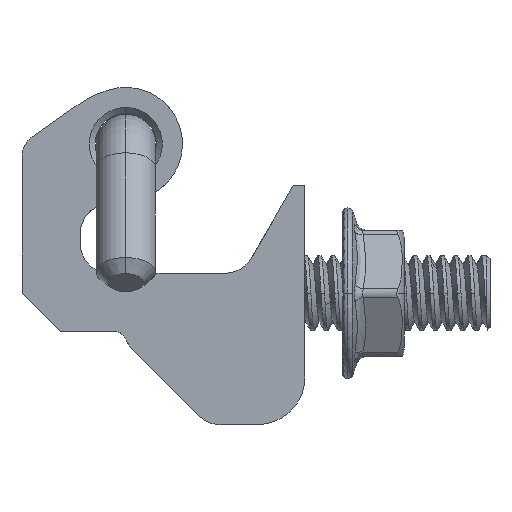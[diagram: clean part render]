
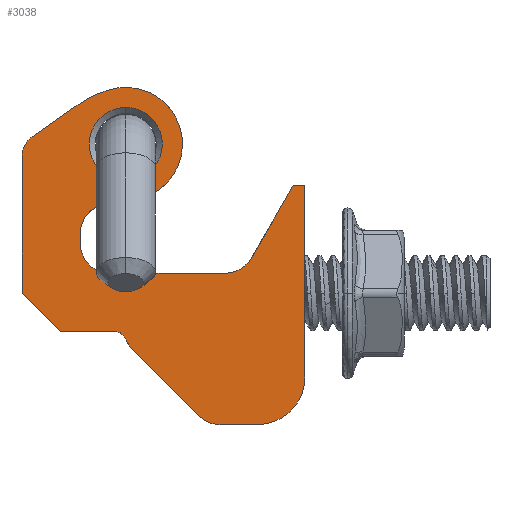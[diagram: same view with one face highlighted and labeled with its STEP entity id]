
A CAD part, left-side view. The second image highlights one B-rep face of the part: STEP entity #3038.
In plain terms, the highlighted planar face has unit normal (-1, 0, 0).
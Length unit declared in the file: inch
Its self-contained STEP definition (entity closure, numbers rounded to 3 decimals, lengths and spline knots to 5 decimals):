
#710=CARTESIAN_POINT('',(-1.575,0.,0.));
#711=DIRECTION('',(1.,0.,0.));
#712=DIRECTION('',(0.,0.,1.));
#713=AXIS2_PLACEMENT_3D('',#710,#711,#712);
#715=CARTESIAN_POINT('',(-1.575,0.,0.));
#716=DIRECTION('',(1.,0.,0.));
#717=DIRECTION('',(0.,0.,-1.));
#718=AXIS2_PLACEMENT_3D('',#715,#716,#717);
#720=CARTESIAN_POINT('',(-1.575,0.052,-0.328));
#721=DIRECTION('',(1.,0.,0.));
#722=DIRECTION('',(0.,0.,-1.));
#723=AXIS2_PLACEMENT_3D('',#720,#721,#722);
#725=DIRECTION('',(0.,1.,0.));
#726=VECTOR('',#725,0.37948);
#727=CARTESIAN_POINT('',(-1.575,-0.32748,-0.426));
#728=LINE('',#727,#726);
#729=CARTESIAN_POINT('',(-1.575,-0.32748,-0.326));
#730=DIRECTION('',(1.,0.,0.));
#731=DIRECTION('',(0.,-0.865,-0.501));
#732=AXIS2_PLACEMENT_3D('',#729,#730,#731);
#734=DIRECTION('',(0.,0.501,-0.865));
#735=VECTOR('',#734,0.27523);
#736=CARTESIAN_POINT('',(-1.575,-0.552,-0.138));
#737=LINE('',#736,#735);
#738=DIRECTION('',(0.,1.,0.));
#739=VECTOR('',#738,0.039);
#740=CARTESIAN_POINT('',(-1.575,-0.591,-0.138));
#741=LINE('',#740,#739);
#742=DIRECTION('',(0.,0.,1.));
#743=VECTOR('',#742,0.63);
#744=CARTESIAN_POINT('',(-1.575,-0.591,-0.768));
#745=LINE('',#744,#743);
#746=CARTESIAN_POINT('',(-1.575,-0.434,-0.768));
#747=DIRECTION('',(-1.,0.,0.));
#748=DIRECTION('',(0.,0.,-1.));
#749=AXIS2_PLACEMENT_3D('',#746,#747,#748);
#751=DIRECTION('',(0.,-1.,0.));
#752=VECTOR('',#751,0.12258);
#753=CARTESIAN_POINT('',(-1.575,-0.31142,-0.925));
#754=LINE('',#753,#752);
#755=CARTESIAN_POINT('',(-1.575,-0.31142,-0.825));
#756=DIRECTION('',(-1.,0.,0.));
#757=DIRECTION('',(0.,0.707,-0.707));
#758=AXIS2_PLACEMENT_3D('',#755,#756,#757);
#760=DIRECTION('',(0.,-0.707,-0.707));
#761=VECTOR('',#760,0.30998);
#762=CARTESIAN_POINT('',(-1.575,-0.02152,-0.67652));
#763=LINE('',#762,#761);
#764=CARTESIAN_POINT('',(-1.575,-0.09223,-0.60581));
#765=DIRECTION('',(-1.,0.,0.));
#766=DIRECTION('',(0.,0.93,-0.368));
#767=AXIS2_PLACEMENT_3D('',#764,#765,#766);
#769=CARTESIAN_POINT('',(-1.575,0.037,-0.657));
#770=DIRECTION('',(1.,0.,0.));
#771=DIRECTION('',(0.,0.,1.));
#772=AXIS2_PLACEMENT_3D('',#769,#770,#771);
#774=DIRECTION('',(0.,-1.,0.));
#775=VECTOR('',#774,0.179);
#776=CARTESIAN_POINT('',(-1.575,0.216,-0.618));
#777=LINE('',#776,#775);
#778=DIRECTION('',(0.,-0.707,-0.707));
#779=VECTOR('',#778,0.17819);
#780=CARTESIAN_POINT('',(-1.575,0.342,-0.492));
#781=LINE('',#780,#779);
#782=DIRECTION('',(0.,0.,-1.));
#783=VECTOR('',#782,0.45139);
#784=CARTESIAN_POINT('',(-1.575,0.342,-0.04061));
#785=LINE('',#784,#783);
#786=CARTESIAN_POINT('',(-1.575,0.263,-0.04061));
#787=DIRECTION('',(-1.,0.,0.));
#788=DIRECTION('',(0.,0.575,0.818));
#789=AXIS2_PLACEMENT_3D('',#786,#787,#788);
#791=DIRECTION('',(0.,0.818,-0.575));
#792=VECTOR('',#791,0.17629);
#793=CARTESIAN_POINT('',(-1.575,0.1642,0.12539));
#794=LINE('',#793,#792);
#795=CARTESIAN_POINT('',(-1.575,-0.05757,-0.19015));
#796=DIRECTION('',(1.,0.,0.));
#797=DIRECTION('',(0.,0.575,0.818));
#798=AXIS2_PLACEMENT_3D('',#795,#796,#797);
#800=CARTESIAN_POINT('',(-1.575,0.,0.));
#801=DIRECTION('',(1.,0.,0.));
#802=DIRECTION('',(0.,0.29,0.957));
#803=AXIS2_PLACEMENT_3D('',#800,#801,#802);
#805=CARTESIAN_POINT('',(-1.575,0.06339,0.19591));
#806=DIRECTION('',(1.,0.,0.));
#807=DIRECTION('',(0.,-0.308,-0.951));
#808=AXIS2_PLACEMENT_3D('',#805,#806,#807);
#810=CARTESIAN_POINT('',(-1.575,0.052,-0.295));
#811=DIRECTION('',(1.,0.,0.));
#812=DIRECTION('',(0.,1.,0.));
#813=AXIS2_PLACEMENT_3D('',#810,#811,#812);
#815=DIRECTION('',(0.,0.,1.));
#816=VECTOR('',#815,0.033);
#817=CARTESIAN_POINT('',(-1.575,0.15,-0.328));
#818=LINE('',#817,#816);
#1677=CARTESIAN_POINT('',(-1.575,0.342,-0.492));
#1678=CARTESIAN_POINT('',(-1.575,0.216,-0.618));
#1679=VERTEX_POINT('',#1677);
#1680=VERTEX_POINT('',#1678);
#1682=CARTESIAN_POINT('',(-1.575,-0.32748,-0.426));
#1684=VERTEX_POINT('',#1682);
#1701=CARTESIAN_POINT('',(-1.575,0.30843,0.02402));
#1703=VERTEX_POINT('',#1701);
#1715=CARTESIAN_POINT('',(-1.575,-0.591,-0.768));
#1716=CARTESIAN_POINT('',(-1.575,-0.591,-0.138));
#1717=VERTEX_POINT('',#1715);
#1718=VERTEX_POINT('',#1716);
#1751=CARTESIAN_POINT('',(-1.575,0.,-0.1205));
#1752=CARTESIAN_POINT('',(-1.575,0.,0.1205));
#1753=VERTEX_POINT('',#1751);
#1754=VERTEX_POINT('',#1752);
#1767=CARTESIAN_POINT('',(-1.575,-0.414,-0.37614));
#1769=VERTEX_POINT('',#1767);
#1789=CARTESIAN_POINT('',(-1.575,-0.434,-0.925));
#1790=VERTEX_POINT('',#1789);
#1887=CARTESIAN_POINT('',(-1.575,0.342,-0.04061));
#1888=VERTEX_POINT('',#1887);
#1901=CARTESIAN_POINT('',(-1.575,0.037,-0.618));
#1902=VERTEX_POINT('',#1901);
#1907=CARTESIAN_POINT('',(-1.575,-0.552,-0.138));
#1908=VERTEX_POINT('',#1907);
#1937=CARTESIAN_POINT('',(-1.575,0.00074,-0.64264));
#1938=CARTESIAN_POINT('',(-1.575,-0.02152,-0.67652));
#1939=VERTEX_POINT('',#1937);
#1940=VERTEX_POINT('',#1938);
#1946=CARTESIAN_POINT('',(-1.575,-0.24071,-0.89571));
#1947=VERTEX_POINT('',#1946);
#1948=CARTESIAN_POINT('',(-1.575,-0.31142,-0.925));
#1949=VERTEX_POINT('',#1948);
#1989=CARTESIAN_POINT('',(-1.575,0.05419,0.17898));
#1990=CARTESIAN_POINT('',(-1.575,-0.05757,-0.17792));
#1991=VERTEX_POINT('',#1989);
#1992=VERTEX_POINT('',#1990);
#1993=CARTESIAN_POINT('',(-1.575,0.1642,0.12539));
#1994=VERTEX_POINT('',#1993);
#2045=CARTESIAN_POINT('',(-1.575,0.052,-0.426));
#2046=CARTESIAN_POINT('',(-1.575,0.15,-0.328));
#2047=VERTEX_POINT('',#2045);
#2048=VERTEX_POINT('',#2046);
#2049=CARTESIAN_POINT('',(-1.575,0.15,-0.295));
#2050=VERTEX_POINT('',#2049);
#2051=CARTESIAN_POINT('',(-1.575,0.052,-0.197));
#2052=VERTEX_POINT('',#2051);
#2984=CARTESIAN_POINT('',(-1.575,0.,0.));
#2985=DIRECTION('',(1.,0.,0.));
#2986=DIRECTION('',(0.,0.,-1.));
#2987=AXIS2_PLACEMENT_3D('',#2984,#2985,#2986);
#2988=PLANE('',#2987);
#2990=ORIENTED_EDGE('',*,*,#2989,.F.);
#2992=ORIENTED_EDGE('',*,*,#2991,.F.);
#2994=ORIENTED_EDGE('',*,*,#2993,.F.);
#2995=ORIENTED_EDGE('',*,*,#2723,.F.);
#2996=ORIENTED_EDGE('',*,*,#2820,.F.);
#2998=ORIENTED_EDGE('',*,*,#2997,.F.);
#3000=ORIENTED_EDGE('',*,*,#2999,.F.);
#3002=ORIENTED_EDGE('',*,*,#3001,.F.);
#3004=ORIENTED_EDGE('',*,*,#3003,.F.);
#3006=ORIENTED_EDGE('',*,*,#3005,.F.);
#3008=ORIENTED_EDGE('',*,*,#3007,.F.);
#3010=ORIENTED_EDGE('',*,*,#3009,.F.);
#3012=ORIENTED_EDGE('',*,*,#3011,.F.);
#3014=ORIENTED_EDGE('',*,*,#3013,.F.);
#3016=ORIENTED_EDGE('',*,*,#3015,.F.);
#3018=ORIENTED_EDGE('',*,*,#3017,.F.);
#3020=ORIENTED_EDGE('',*,*,#3019,.F.);
#3022=ORIENTED_EDGE('',*,*,#3021,.T.);
#3023=ORIENTED_EDGE('',*,*,#2955,.T.);
#3025=ORIENTED_EDGE('',*,*,#3024,.T.);
#3027=ORIENTED_EDGE('',*,*,#3026,.F.);
#3029=ORIENTED_EDGE('',*,*,#3028,.F.);
#3030=EDGE_LOOP('',(#2990,#2992,#2994,#2995,#2996,#2998,#3000,#3002,#3004,#3006,
#3008,#3010,#3012,#3014,#3016,#3018,#3020,#3022,#3023,#3025,#3027,#3029));
#3031=FACE_OUTER_BOUND('',#3030,.F.);
#3033=ORIENTED_EDGE('',*,*,#3032,.F.);
#3035=ORIENTED_EDGE('',*,*,#3034,.F.);
#3036=EDGE_LOOP('',(#3033,#3035));
#3037=FACE_BOUND('',#3036,.F.);
#714=CIRCLE('',#713,0.1205);
#719=CIRCLE('',#718,0.1205);
#724=CIRCLE('',#723,0.098);
#733=CIRCLE('',#732,0.1);
#750=CIRCLE('',#749,0.157);
#759=CIRCLE('',#758,0.1);
#768=CIRCLE('',#767,0.1);
#773=CIRCLE('',#772,0.039);
#790=CIRCLE('',#789,0.079);
#799=CIRCLE('',#798,0.38567);
#804=CIRCLE('',#803,0.187);
#809=CIRCLE('',#808,0.39291);
#814=CIRCLE('',#813,0.098);
#2723=EDGE_CURVE('',#1908,#1769,#737,.T.);
#2820=EDGE_CURVE('',#1718,#1908,#741,.T.);
#2955=EDGE_CURVE('',#1991,#1992,#804,.T.);
#2989=EDGE_CURVE('',#2047,#2048,#724,.T.);
#2991=EDGE_CURVE('',#1684,#2047,#728,.T.);
#2993=EDGE_CURVE('',#1769,#1684,#733,.T.);
#2997=EDGE_CURVE('',#1717,#1718,#745,.T.);
#2999=EDGE_CURVE('',#1790,#1717,#750,.T.);
#3001=EDGE_CURVE('',#1949,#1790,#754,.T.);
#3003=EDGE_CURVE('',#1947,#1949,#759,.T.);
#3005=EDGE_CURVE('',#1940,#1947,#763,.T.);
#3007=EDGE_CURVE('',#1939,#1940,#768,.T.);
#3009=EDGE_CURVE('',#1902,#1939,#773,.T.);
#3011=EDGE_CURVE('',#1680,#1902,#777,.T.);
#3013=EDGE_CURVE('',#1679,#1680,#781,.T.);
#3015=EDGE_CURVE('',#1888,#1679,#785,.T.);
#3017=EDGE_CURVE('',#1703,#1888,#790,.T.);
#3019=EDGE_CURVE('',#1994,#1703,#794,.T.);
#3021=EDGE_CURVE('',#1994,#1991,#799,.T.);
#3024=EDGE_CURVE('',#1992,#2052,#809,.T.);
#3026=EDGE_CURVE('',#2050,#2052,#814,.T.);
#3028=EDGE_CURVE('',#2048,#2050,#818,.T.);
#3032=EDGE_CURVE('',#1754,#1753,#714,.T.);
#3034=EDGE_CURVE('',#1753,#1754,#719,.T.);
#3038=ADVANCED_FACE('',(#3031,#3037),#2988,.F.);
